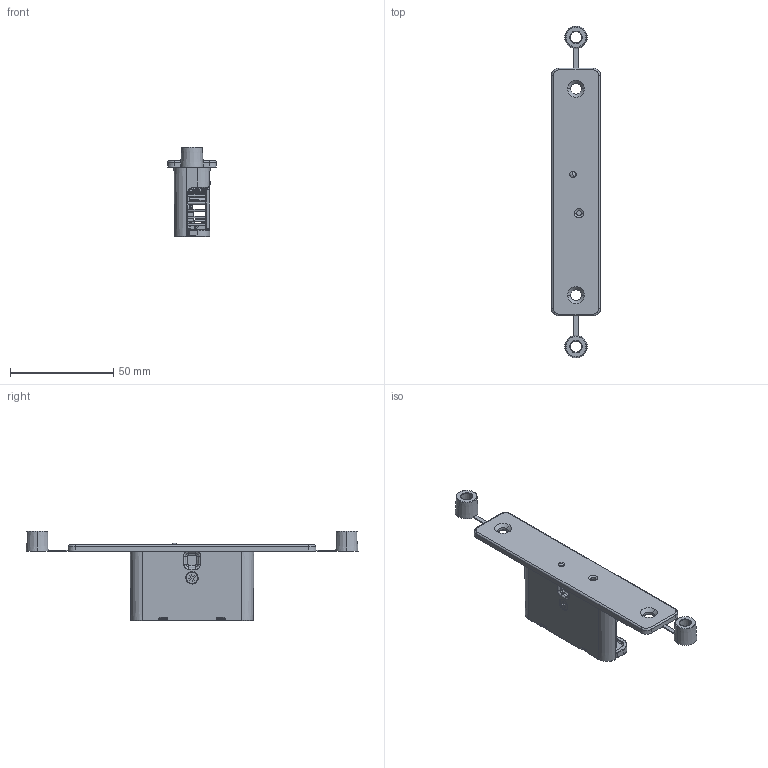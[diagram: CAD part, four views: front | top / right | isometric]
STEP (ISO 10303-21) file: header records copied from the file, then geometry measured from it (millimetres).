
FILE_DESCRIPTION (( 'STEP AP214' ), '1' );
FILE_NAME ('S11147-00001_ENTRAsys+_RX_Funkempfänger.STEP', '2019-04-29T07:07:14', ( '' ), ( '' ), 'SwSTEP 2.0', 'SolidWorks 2017', '' );
FILE_SCHEMA (( 'AUTOMOTIVE_DESIGN' ));
Length unit declared in the file: millimetre
Products named in the file (70): DEBUG_INTERFACE_PICKIT_ICD_V33_DEBUG_INTERFACE_PICKIT_ICD_V3_S_IC_Controller3; MFP40_MFP4_S_IC_Optokoppler0; 1X031_1X03_S_X_Stiftleiste1; PR03305VBHCTYP2242_PR03305VBHCTYP224_S_X_Stiftleiste2; DUOLED_RIGHTANGLE_3X1MM0_DUOLED_RIGHTANGLE_3X1MM_S_LED0; PR03305VBHCTYP2241_PR03305VBHCTYP224_S_X_Stiftleiste1; 0102_MICROMELF_R0_0102_MICROMELF_R_S_Diode; PR03304VBHCTYP2247_PR03304VBHCTYP224_S_X_Stiftleiste7; SOT23610_SOT2361_S_IC_Spannungsregler0; 1X037_1X03_S_X_Stiftleiste7; SOIC4_V22_SOIC4_V2_S_Rectifier2; DEBUG_INTERFACE_PICKIT_ICD_V32_DEBUG_INTERFACE_PICKIT_ICD_V3_S_IC_Controller2; SO89_SO8_S_IC_Memory9; PR03304VBHCTYP2245_PR03304VBHCTYP224_S_X_Stiftleiste5; SOD80CMMELFR0_SOD80CMMELFR_S_Diode0; 1X036_1X03_S_X_Stiftleiste6; SO86_SO8_S_IC_Memory6; neuer_Taster_02-02-2018; SOIC4_V24_SOIC4_V2_S_Rectifier4; 1X035_1X03_S_X_Stiftleiste5; SO83_SO8_S_IC_Memory3; DEBUG_INTERFACE_PICKIT_ICD_V36_DEBUG_INTERFACE_PICKIT_ICD_V3_S_IC_Controller6; PR03304VBHCTYP2243_PR03304VBHCTYP224_S_X_Stiftleiste3; L1210R0_L1210R_S_RCL0; SMA(DO214AC)0_SMA(DO214AC)_S_Diode0; DEBUG_INTERFACE_PICKIT_ICD_V35_DEBUG_INTERFACE_PICKIT_ICD_V3_S_IC_Controller5; SO82_SO8_S_IC_Memory2; 1X032_1X03_S_X_Stiftleiste2; 0868AT43A00200_0868AT43A0020_S_IC_Hochfrequenz0; 1X034_1X03_S_X_Stiftleiste4; PR03302VBHCTYP2241_PR03302VBHCTYP224_S_X_Stiftleiste1; SOIC4_V25_SOIC4_V2_S_Rectifier5; 90765; entrasysrxsomloq2_ew6; 0402_SMALL_MARKED0_0402_SMALL_MARKED_IMST0; PR03305VBHCTYP2246_PR03305VBHCTYP224_S_X_Stiftleiste6; S11147-00001_ENTRAsys+_RX_Funkempfänger; PR03304VBHCTYP2242_PR03304VBHCTYP224_S_X_Stiftleiste2; XTAL_32250_XTAL_3225_IMST0; SI4455_V30_SI4455_V3_IMST0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
Assembly tree (107 placements, depth 3):
  0102_MICROMELF_R0_0102_MICROMELF_R_S_Diode
  1X037_1X03_S_X_Stiftleiste7
  1X036_1X03_S_X_Stiftleiste6
  1X035_1X03_S_X_Stiftleiste5
  S11147-00001_ENTRAsys+_RX_Funkempfänger
    90678_2 Distanzh〕sen ausgeklappt
    90804
    90765
    entrasysrxsomloq2_ew6
      neuer_Taster_02-02-2018
      entrasysrxsomloq2_ew6
      0868AT43A00200_0868AT43A0020_S_IC_Hochfrequenz0
      0402_SMALL0_0402_SMALL_IMST0  x24
      C06030_C0603_S_RCL0
      0603_XS0_0603_XS_IMST0  x4
      C0805R_PCBSTANDARD0_C0805R_PCBSTANDARD_S_RCL0
      SMA(DO214AC)0_SMA(DO214AC)_S_Diode0
      SOIC4_V21_SOIC4_V2_S_Rectifier1
      SOIC4_V22_SOIC4_V2_S_Rectifier2
      SOIC4_V23_SOIC4_V2_S_Rectifier3
      SOIC4_V24_SOIC4_V2_S_Rectifier4
      SOIC4_V25_SOIC4_V2_S_Rectifier5
      SMA(DO214AC)0_SMA(DO214AC)_S_Diode  x2
      SOD80CMMELFR0_SOD80CMMELFR_S_Diode0  x2
      DUOLED_RIGHTANGLE_3X1MM0_DUOLED_RIGHTANGLE_3X1MM_S_LED0
      SOT23610_SOT2361_S_IC_Spannungsregler0
      MFP40_MFP4_S_IC_Optokoppler0
      SI4455_V30_SI4455_V3_IMST0
      SO81_SO8_S_IC_Memory1
      SO82_SO8_S_IC_Memory2
      SO83_SO8_S_IC_Memory3
      SO84_SO8_S_IC_Memory4
      SO85_SO8_S_IC_Memory5
      SO86_SO8_S_IC_Memory6
      SO87_SO8_S_IC_Memory7
      SO88_SO8_S_IC_Memory8
      SO89_SO8_S_IC_Memory9
      SOP60_SOP6_S_IC_HalbleiterRelais0
      L1210R0_L1210R_S_RCL0
      0402_SMALL_MARKED0_0402_SMALL_MARKED_IMST0  x6
      XTAL_32250_XTAL_3225_IMST0
      R06030_R0603_S_RCL0  x10
      1X031_1X03_S_X_Stiftleiste1
      1X032_1X03_S_X_Stiftleiste2
      1X033_1X03_S_X_Stiftleiste3
      1X034_1X03_S_X_Stiftleiste4
      DEBUG_INTERFACE_PICKIT_ICD_V31_DEBUG_INTERFACE_PICKIT_ICD_V3_S_IC_Controller1
      DEBUG_INTERFACE_PICKIT_ICD_V32_DEBUG_INTERFACE_PICKIT_ICD_V3_S_IC_Controller2
      DEBUG_INTERFACE_PICKIT_ICD_V33_DEBUG_INTERFACE_PICKIT_ICD_V3_S_IC_Controller3
      DEBUG_INTERFACE_PICKIT_ICD_V34_DEBUG_INTERFACE_PICKIT_ICD_V3_S_IC_Controller4
      DEBUG_INTERFACE_PICKIT_ICD_V35_DEBUG_INTERFACE_PICKIT_ICD_V3_S_IC_Controller5
      DEBUG_INTERFACE_PICKIT_ICD_V36_DEBUG_INTERFACE_PICKIT_ICD_V3_S_IC_Controller6
      X_JUMPER0_X_JUMPER_S_X_Jumper0
      PR03305VBHCTYP2241_PR03305VBHCTYP224_S_X_Stiftleiste1
      PR03305VBHCTYP2242_PR03305VBHCTYP224_S_X_Stiftleiste2
      PR03305VBHCTYP2243_PR03305VBHCTYP224_S_X_Stiftleiste3
      PR03305VBHCTYP2244_PR03305VBHCTYP224_S_X_Stiftleiste4
      PR03305VBHCTYP2245_PR03305VBHCTYP224_S_X_Stiftleiste5
      PR03305VBHCTYP2246_PR03305VBHCTYP224_S_X_Stiftleiste6
      PR03305VBHCTYP2248_PR03305VBHCTYP224_S_X_Stiftleiste8
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Bounding box: 23.76 x 161 x 43.4 mm (x, y, z)
Volume: 22599.9 mm3; surface area: 23726.5 mm2
Topology: 106 solids, 106 shells, 1933 faces, 4452 edges, 2772 vertices
Faces by surface type: plane 904, cylinder 438, bspline 400, torus 88, cone 66, sphere 37
Entity records: 81194 total; most frequent: CARTESIAN_POINT 25244, ORIENTED_EDGE 7872, DIRECTION 6788, EDGE_CURVE 3936, VERTEX_POINT 2436, AXIS2_PLACEMENT_3D 2407, LINE 1974, VECTOR 1974
